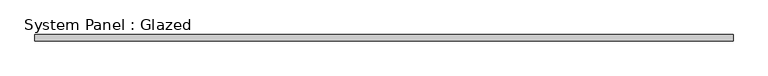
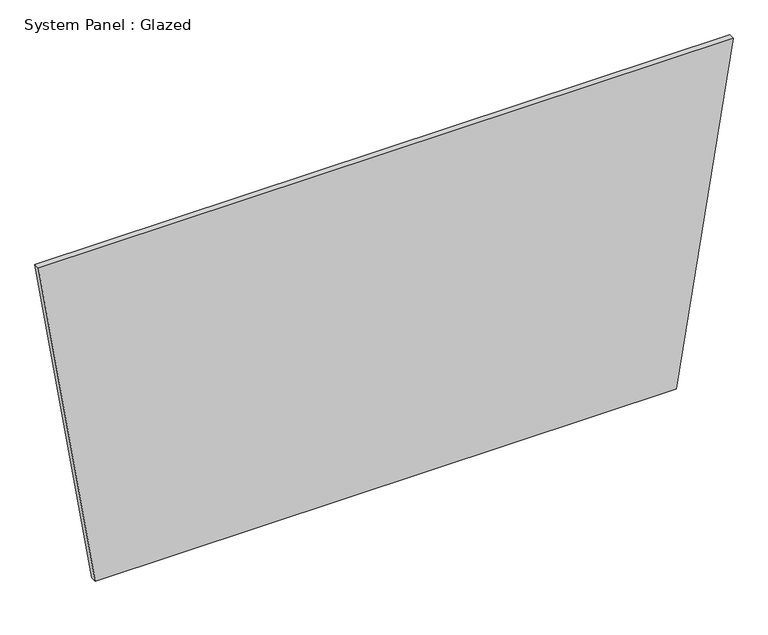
"""IFC4 building model written with IfcOpenShell, lengths in millimetres: plate geometry, System Panel : Glazed."""

from ifc_helpers import new_model, si_unit, frame, origin, place, context, project, spatial, polyline, outline, extrude, source, transform, mapped, element, save


def system_panel_glazed_facd528d(model_context):
    return source(origin(), model_context, "Body", "SweptSolid", [
        extrude(outline(polyline([(0.0, -1192.9059643), (0.0, 1192.9059643), (1441.0018398, 1425.6521384), (1441.0018398, -1425.6521384), (0.0, -1192.9059643)])), frame((0.0, 19.05, 0.0), z_axis=(0.0, 1.0, 0.0), x_axis=(0.0, 0.0, 1.0)), (0.0, 0.0, 1.0), 25.4),
    ])


if __name__ == "__main__":
    model = new_model("IFC4")
    model_context = context("Model", 3, world=origin())
    ifc_project = project(units=[si_unit("LENGTHUNIT", "METRE", prefix="MILLI")], contexts=[model_context])
    site = spatial("IfcSite", under=ifc_project)
    building = spatial("IfcBuilding", under=site)
    placement = place(None, origin())
    system_panel_glazed_shape = system_panel_glazed_facd528d(model_context)
    element("IfcPlate", 1, ObjectType="System Panel : Glazed", at=placement, inside=building, context=model_context, shape_type="MappedRepresentation", body=[
        mapped(system_panel_glazed_shape, transform((0.0, 0.0, 0.0), x_axis=(1.0, 0.0, 0.0), y_axis=(0.0, 1.0, 0.0), z_axis=(0.0, 0.0, 1.0))),
    ])
    save(model, "model.ifc")
